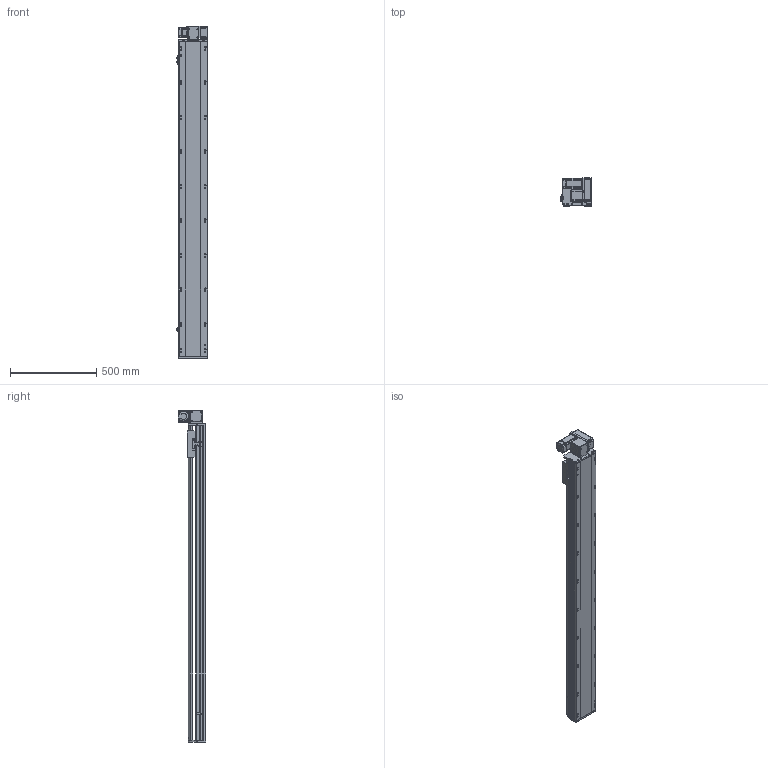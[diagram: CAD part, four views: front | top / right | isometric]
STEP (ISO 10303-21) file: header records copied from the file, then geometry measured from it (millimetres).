
FILE_DESCRIPTION (( 'STEP AP214' ), '1' );
FILE_NAME ('RTB17S-XX-1550-RW-M40-C4.STEP', '2025-12-11T09:04:13', ( '' ), ( '' ), 'SwSTEP 2.0', 'SolidWorks 2018', '' );
FILE_SCHEMA (( 'AUTOMOTIVE_DESIGN' ));
Length unit declared in the file: millimetre
Products named in the file (14): RTB14-L-017P^RTB17S-RW-々湍釱蚾饜-400W_RTB17S-XX-XX-RW-M40-C4; RTB17S-L-001耜醱啣^RTB17S-XX-XX-RW-M40-C4; 400W侜督萇儂^RTB17S-XX-XX-RW-M40-C4; RMP17S-L-014-T20--々湍釱^RTB17S-RW-々湍釱蚾饜-400W_RTB17S-XX-XX-RW-M40-C4; RTB17S-L-007奻裔^RTB17S-XX-XX-RW-M40-C4; RTB17-R-011菁釱^RTB17S-XX-XX-RW-M40-C4; RTB14-L-008-M20--萇儂啣^RTB17S-RW-々湍釱蚾饜-400W_RTB17S-XX-XX-RW-M40-C4; RTB14-L-018P^RTB17S-RW-々湍釱蚾饜-400W_RTB17S-XX-XX-RW-M40-C4; RTB17S-RW-々湍釱蚾饜-400W^RTB17S-XX-XX-RW-M40-C4; RTB17S-XX-1550-RW-M40-C4; RTB14-L-005P--轴承塑胶压盖^RTB17S-RW-皮带座装配-400W_RTB17S-XX-XX-RW-M40-C4; OMRON EE-SX672 传感器^RTB17S-XX-XX-RW-M40-C4; RTB17S-L-004佪裝蹟譫蟀諉釱^RTB17S-XX-XX-RW-M40-C4; RTH13-BL-012覜茼え俋离^RTB17S-XX-XX-RW-M40-C4
Assembly tree (16 placements, depth 3):
  RTB17S-XX-1550-RW-M40-C4
    RTB17-R-011菁釱^RTB17S-XX-XX-RW-M40-C4
    RTB17S-L-007奻裔^RTB17S-XX-XX-RW-M40-C4
    OMRON EE-SX672 传感器^RTB17S-XX-XX-RW-M40-C4  x3
    RTB17S-L-001耜醱啣^RTB17S-XX-XX-RW-M40-C4
    400W侜督萇儂^RTB17S-XX-XX-RW-M40-C4
    RTB17S-L-004佪裝蹟譫蟀諉釱^RTB17S-XX-XX-RW-M40-C4
    RTH13-BL-012覜茼え俋离^RTB17S-XX-XX-RW-M40-C4
    RTB17S-RW-々湍釱蚾饜-400W^RTB17S-XX-XX-RW-M40-C4
      RMP17S-L-014-T20--々湍釱^RTB17S-RW-々湍釱蚾饜-400W_RTB17S-XX-XX-RW-M40-C4
      RTB14-L-005P--轴承塑胶压盖^RTB17S-RW-皮带座装配-400W_RTB17S-XX-XX-RW-M40-C4
      RTB14-L-008-M20--萇儂啣^RTB17S-RW-々湍釱蚾饜-400W_RTB17S-XX-XX-RW-M40-C4
      RTB14-L-017P^RTB17S-RW-々湍釱蚾饜-400W_RTB17S-XX-XX-RW-M40-C4  x2
      RTB14-L-018P^RTB17S-RW-々湍釱蚾饜-400W_RTB17S-XX-XX-RW-M40-C4
Bounding box: 183.5 x 160.5 x 1922.5 mm (x, y, z)
Volume: 16859563.8 mm3; surface area: 1987175.1 mm2
Topology: 15 solids, 15 shells, 2253 faces, 6249 edges, 4077 vertices
Faces by surface type: plane 1074, cylinder 731, bspline 301, cone 139, torus 8
Entity records: 64937 total; most frequent: CARTESIAN_POINT 18254, ORIENTED_EDGE 9342, DIRECTION 8666, EDGE_CURVE 4671, VERTEX_POINT 3065, AXIS2_PLACEMENT_3D 2995, LINE 2676, VECTOR 2676
